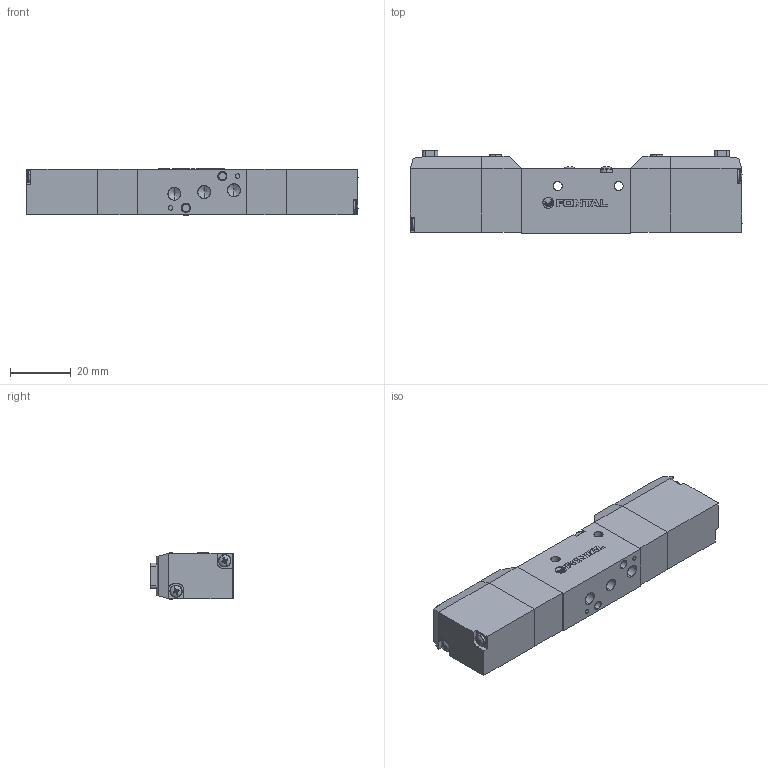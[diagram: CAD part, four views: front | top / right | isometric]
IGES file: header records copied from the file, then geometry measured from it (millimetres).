
Start section: SolidWorks IGES file using analytic representation for surfaces
Global section: file name: C:\Users\Toshiba\Desktop\RCD345#-M5-#-L-#.IGS; native system: SolidWorks 2014; preprocessor: SolidWorks 2014; author: Toshiba; date: 160614.165701; units: millimetre
Bounding box: 109.14 x 27.5 x 15.4 mm (x, y, z)
Surface area: 15080 mm2 (no closed solid volume)
Topology: 0 solids, 0 shells, 514 faces, 4744 edges, 4722 vertices
Faces by surface type: bspline 317, revolution 197
